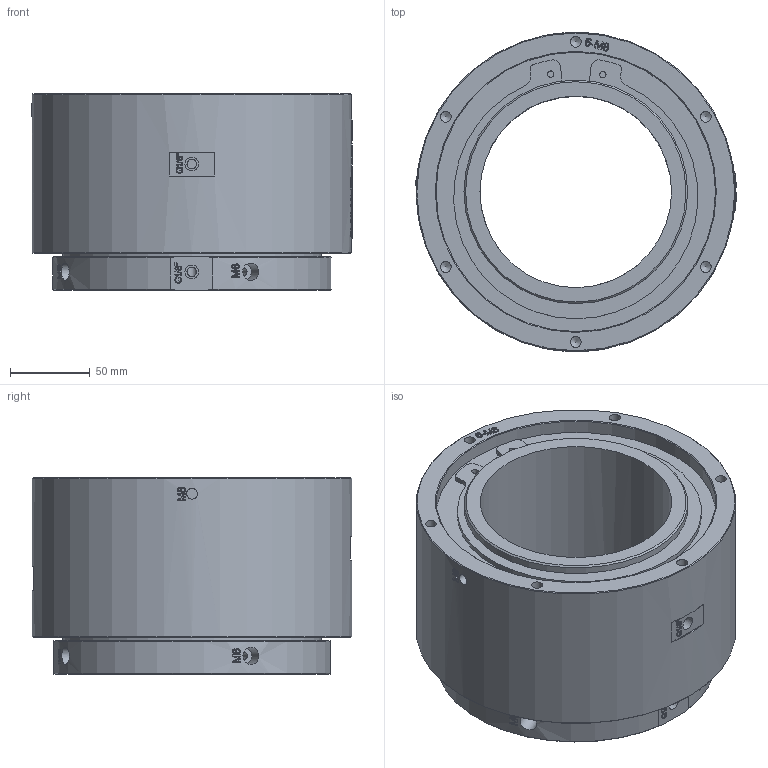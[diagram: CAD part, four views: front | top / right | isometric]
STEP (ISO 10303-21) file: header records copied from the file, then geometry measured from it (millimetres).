
FILE_DESCRIPTION(/* description */ (''),/* implementation_level */ '2;1');
FILE_NAME(/* name */ 'YQ0201-D120-3D模型.stp',/* time_stamp */ '2025-08-05T16:34:21+08:00',/* author */ (''),/* organization */ (''),/* preprocessor_version */ 'ST-DEVELOPER v16.7',/* originating_system */ 'SIEMENS PLM Software NX 12.0',/* authorisation */ '');
FILE_SCHEMA (('AUTOMOTIVE_DESIGN { 1 0 10303 214 3 1 1 1 }'));
Products named in the file (1): Admi16E026DChxwv
Bounding box: 200.72 x 200 x 123.4 mm (x, y, z)
Volume: 2207040.5 mm3; surface area: 189708.1 mm2
Topology: 1 solids, 1 shells, 1631 faces, 4469 edges, 2980 vertices
Faces by surface type: extrusion 973, plane 484, cylinder 82, bspline 73, cone 19
Full cylindrical faces by diameter (mm): 4 x2, 5 x4, 6 x6, 6.8 x12, 8.4 x2, 8.5 x6, 11 x4, 120 x1, 136 x1, 140 x1, 162 x1, 175 x1, 190 x1, 200 x1
Entity records: 65231 total; most frequent: CARTESIAN_POINT 31120, ORIENTED_EDGE 8756, B_SPLINE_CURVE_WITH_KNOTS 4519, EDGE_CURVE 4378, DIRECTION 3279, VERTEX_POINT 2958, EDGE_LOOP 1840, ADVANCED_FACE 1631
